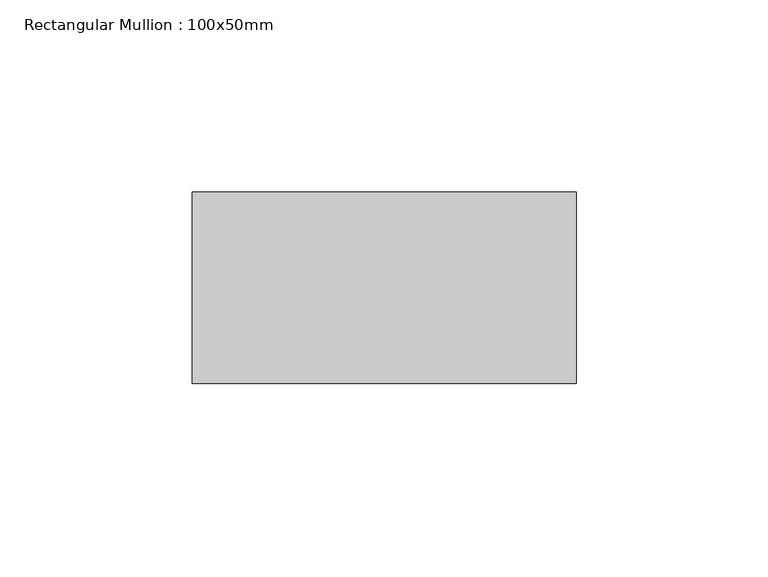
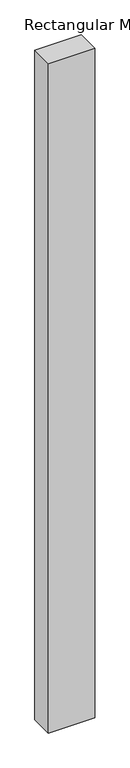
"""IFC4 building model written with IfcOpenShell, lengths in millimetres: member geometry, Rectangular Mullion : 100x50mm."""

from ifc_helpers import new_model, si_unit, frame, origin, place, context, project, spatial, polyline, outline, extrude, source, transform, mapped, element, save


def rectangular_mullion_100x50mm_f8b5f2d6(model_context):
    return source(origin(), model_context, "Body", "SweptSolid", [
        extrude(outline(polyline([(50.0, 25.0), (50.0, -25.0), (-50.0, -25.0), (-50.0, 25.0), (50.0, 25.0)])), frame((0.0, 0.0, -1520.0184313), z_axis=(0.0, 0.0, 1.0), x_axis=(1.0, 0.0, 0.0)), (0.0, 0.0, 1.0), 1520.0184313),
    ])


if __name__ == "__main__":
    model = new_model("IFC4")
    model_context = context("Model", 3, world=origin())
    ifc_project = project(units=[si_unit("LENGTHUNIT", "METRE", prefix="MILLI")], contexts=[model_context])
    site = spatial("IfcSite", under=ifc_project)
    building = spatial("IfcBuilding", under=site)
    placement = place(None, origin())
    rectangular_mullion_100x50mm_shape = rectangular_mullion_100x50mm_f8b5f2d6(model_context)
    element("IfcMember", 1, ObjectType="Rectangular Mullion : 100x50mm", at=placement, inside=building, context=model_context, shape_type="MappedRepresentation", body=[
        mapped(rectangular_mullion_100x50mm_shape, transform((0.0, 0.0, 0.0), x_axis=(1.0, 0.0, 0.0), y_axis=(0.0, 1.0, 0.0), z_axis=(0.0, 0.0, 1.0))),
    ])
    save(model, "model.ifc")
